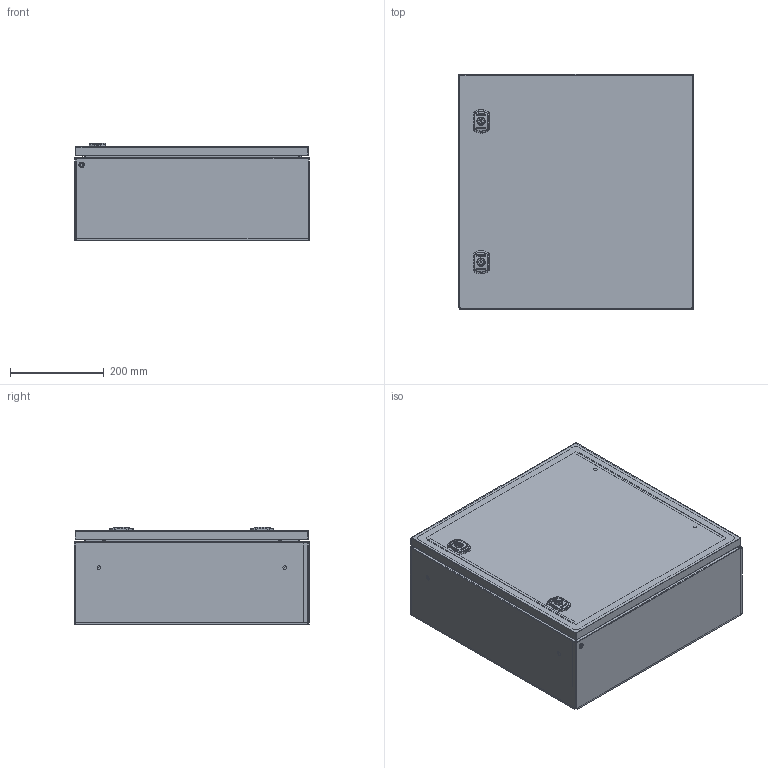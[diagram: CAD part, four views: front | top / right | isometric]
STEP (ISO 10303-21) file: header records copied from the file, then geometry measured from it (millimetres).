
FILE_DESCRIPTION(('Open CASCADE Model'),'2;1');
FILE_NAME('Open CASCADE Shape Model','2025-01-21T00:05:46',('Author'),( 'Open CASCADE'),'Open CASCADE STEP processor 7.8','Open CASCADE 7.8' ,'Unknown');
FILE_SCHEMA(('AUTOMOTIVE_DESIGN { 1 0 10303 214 1 1 1 1 }'));
Length unit declared in the file: millimetre
Products named in the file (29): Compound1; Compound2; Compound3; Compound4; Solid1; Solid2; Solid3; Solid4; Compound5; Solid5; Solid6; Solid7; Solid8; Solid9; Compound6; Compound7; Solid10; Solid11; Solid12; Compound8; Solid13; Solid14; Solid15; Solid16; Solid17; Solid18; Solid19; Solid20; Solid21
Assembly tree (51 placements, depth 5):
  Compound1
    Compound2
      Compound3
        Compound4
          Solid1
          Solid2
          Solid3  x4
          Solid4  x4
        Compound5  x2
          Solid5
        Solid6  x2
        Solid7  x2
        Solid8  x2
      Solid9  x4
      Compound6
        Compound7
          Solid10
          Solid11  x2
          Solid12  x2
        Compound8  x2
          Solid13
          Solid14
          Solid15
          Solid16
          Solid17
        Solid18
      Solid19
      Solid20  x4
    Solid21  x5
Bounding box: 500 x 501 x 207.71 mm (x, y, z)
Volume: 1819783.3 mm3; surface area: 2565544.9 mm2
Topology: 48 solids, 48 shells, 4037 faces, 10297 edges, 6506 vertices
Faces by surface type: plane 1793, cylinder 1229, bspline 513, torus 274, cone 164, sphere 56, revolution 8
Full cylindrical faces by diameter (mm): 4 x28, 5.5 x4, 8 x5
Entity records: 148612 total; most frequent: CARTESIAN_POINT 87842, ORIENTED_EDGE 12974, DIRECTION 11802, EDGE_CURVE 6487, VERTEX_POINT 4140, AXIS2_PLACEMENT_3D 3936, LINE 3926, VECTOR 3926
